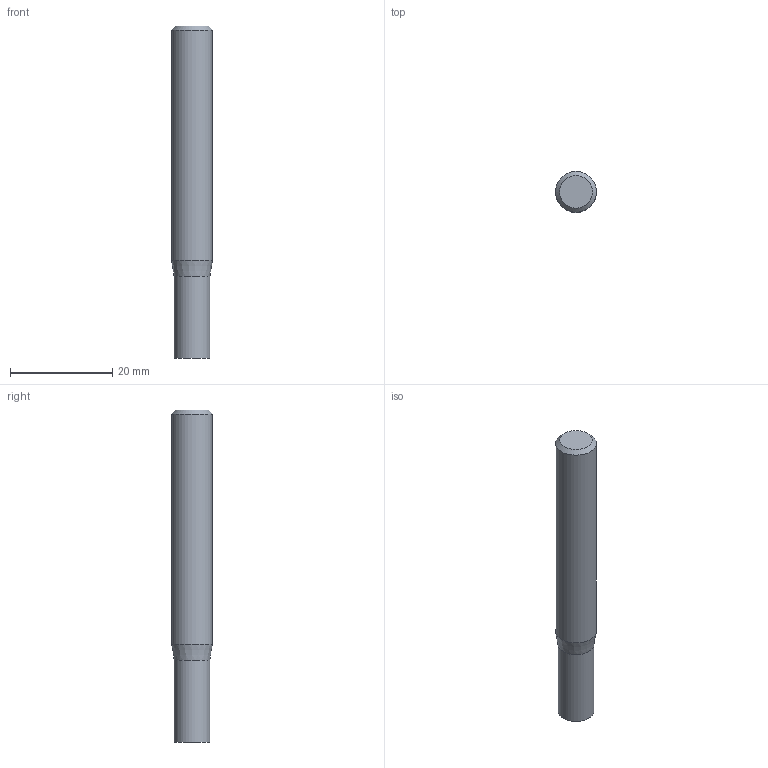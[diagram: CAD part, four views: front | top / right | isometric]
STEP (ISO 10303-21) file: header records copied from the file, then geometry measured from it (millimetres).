
FILE_DESCRIPTION((''),'2;1');
FILE_NAME('C:\Users\nsx150\AppData\Local\Temp\Mastercam 2021\98T1Q6BTT1\TEMP.step','2021-10-21T14:49:17',(''),(''),'STEP Write','Mastercam 2021 ... CNC Software, Inc.','');
FILE_SCHEMA(('AUTOMOTIVE_DESIGN'));
Length unit declared in the file: millimetre
Products named in the file (1): None
Bounding box: 8 x 8 x 65 mm (x, y, z)
Volume: 3052.2 mm3; surface area: 1732.4 mm2
Topology: 2 solids, 2 shells, 8 faces, 10 edges, 6 vertices
Faces by surface type: plane 4, cylinder 2, cone 2
Full cylindrical faces by diameter (mm): 7 x1, 8 x1
Entity records: 190 total; most frequent: DIRECTION 32, CARTESIAN_POINT 22, AXIS2_PLACEMENT_3D 16, ORIENTED_EDGE 12, EDGE_LOOP 12, STYLED_ITEM 11, ADVANCED_FACE 8, VERTEX_POINT 6
